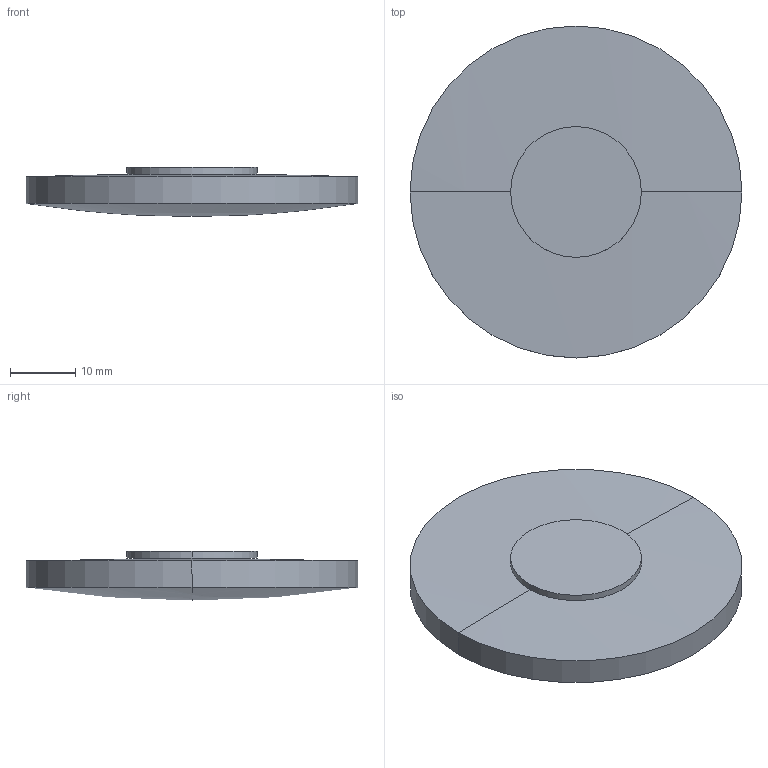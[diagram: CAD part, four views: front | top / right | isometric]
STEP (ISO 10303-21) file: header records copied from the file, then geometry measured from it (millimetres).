
FILE_DESCRIPTION(('STEP AP214'),'1');
FILE_NAME('LLQ-51300.STEP','2020-03-09T17:41:52',(' '),(' '),'Spatial InterOp 3D',' ',' ');
FILE_SCHEMA(('AUTOMOTIVE_DESIGN { 1 0 10303 214 1 1 1 1 }'));
Length unit declared in the file: millimetre
Products named in the file (1): 1
Bounding box: 50.8 x 50.8 x 7.5 mm (x, y, z)
Volume: 11045.5 mm3; surface area: 5409.8 mm2
Topology: 2 solids, 2 shells, 10 faces, 20 edges, 10 vertices
Faces by surface type: sphere 4, cylinder 4, plane 2
Entity records: 255 total; most frequent: DIRECTION 52, CARTESIAN_POINT 38, ORIENTED_EDGE 32, AXIS2_PLACEMENT_3D 24, EDGE_CURVE 16, CIRCLE 12, ADVANCED_FACE 10, FACE_OUTER_BOUND 10
